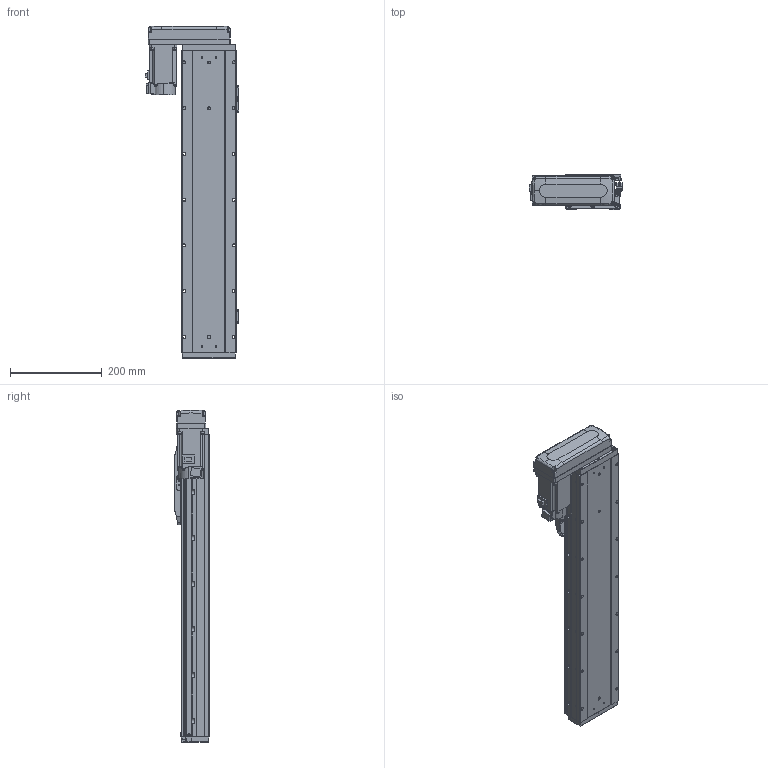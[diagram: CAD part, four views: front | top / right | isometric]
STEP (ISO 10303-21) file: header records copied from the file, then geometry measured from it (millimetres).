
FILE_DESCRIPTION (( 'STEP AP203' ), '1' );
FILE_NAME ('GTH12-450-BR-M40-C4.step', '2023-07-05T00:06:03', ( '微软用户' ), ( '微软中国' ), 'SwSTEP 2.0', 'SolidWorks 2020', '' );
FILE_SCHEMA (( 'CONFIG_CONTROL_DESIGN' ));
Length unit declared in the file: millimetre
Products named in the file (18): GBT 70.3-M3℅8; hg-kn43j_-s100_; GTH120-003; GTH80-022; CTHA86-033_M40B; GTH120-006; GTH80-028; GTH120-027-1_GTH120-027-2; GTH120-004; GTH50-023; GTH12-450-BR-M40-C4; GTH120-013; GTH50-024; GBT 70.1-M3℅6; GBT96.1-2002 3×0.8; GBT 70.1-M5×16; BTH-M3X5X6; GTH120-001_450
Assembly tree (59 placements, depth 2):
  GTH12-450-BR-M40-C4
    GTH120-001_450
    GTH120-003
    GTH120-006
    GTH120-004
    GTH120-013
    GBT 70.1-M3℅6  x14
    GBT 70.1-M5×16  x10
    GBT 70.3-M3℅8  x4
    GTH80-022
    GTH80-028  x2
    GTH50-023  x3
    GTH50-024  x3
    GBT96.1-2002 3×0.8  x6
    BTH-M3X5X6  x8
    hg-kn43j_-s100_
    CTHA86-033_M40B
    GTH120-027-1_GTH120-027-2
Bounding box: 203.5 x 76 x 725.5 mm (x, y, z)
Volume: 5584028.7 mm3; surface area: 552652.3 mm2
Topology: 61 solids, 61 shells, 2405 faces, 5594 edges, 3431 vertices
Faces by surface type: plane 1246, cylinder 687, cone 284, torus 174, sphere 8, bspline 6
Entity records: 44380 total; most frequent: CARTESIAN_POINT 7516, DIRECTION 7326, ORIENTED_EDGE 6798, EDGE_CURVE 3399, AXIS2_PLACEMENT_3D 2562, VECTOR 2202, LINE 2202, VERTEX_POINT 2152
